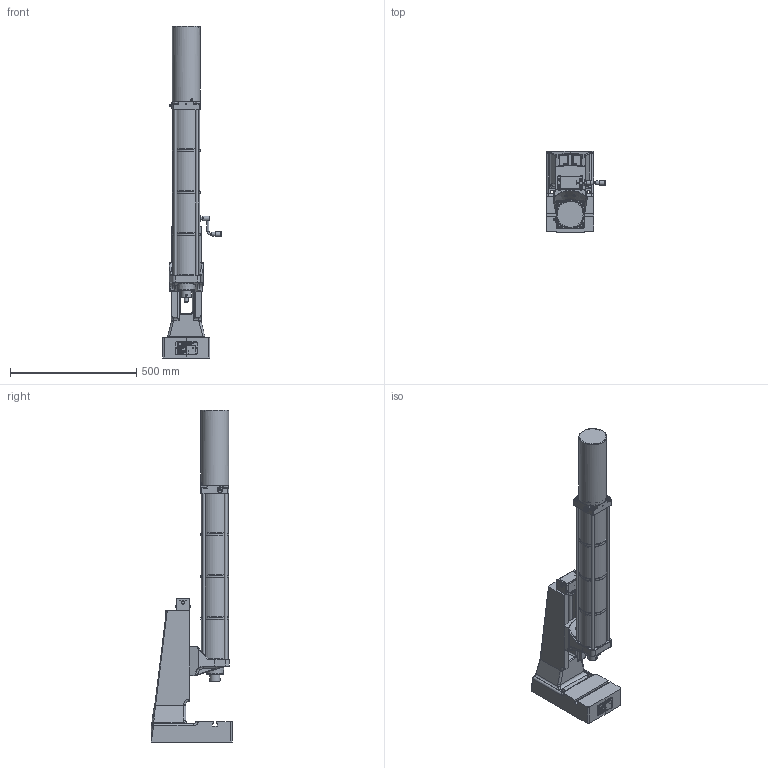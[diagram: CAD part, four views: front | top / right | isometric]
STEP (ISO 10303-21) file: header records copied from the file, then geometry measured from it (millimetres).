
FILE_DESCRIPTION(/* description */ ('Bausatz Ständer T460 N HV-OST'),/* implementation_level */ '2;1');
FILE_NAME(/* name */ 'B:\02_CAD_oeffentlich\CAD_3D_oeffentlich_step\Druckluftpresse\DRP_1700_120_100.stp',/* time_stamp */ '2017-08-25T09:02:33+02:00',/* author */ ('Finsterle'),/* organization */ (''),/* preprocessor_version */ 'ST-DEVELOPER v16.1',/* originating_system */ 'Autodesk Inventor 2016',/* authorisation */ '');
FILE_SCHEMA (('AUTOMOTIVE_DESIGN { 1 0 10303 214 3 1 1 }'));
Products named in the file (5): ENG-000341-1_V; ENG-001111_V; HBF-000760; ENG-000755; HBF-001064_V
Assembly tree (5 placements, depth 2):
  HBF-001064_V
    ENG-000341-1_V
    ENG-001111_V
    HBF-000760
    ENG-000755  x2
Bounding box: 231.79 x 321.2 x 1313.19 mm (x, y, z)
Volume: 10542198.2 mm3; surface area: 1704789.5 mm2
Topology: 6 solids, 29 shells, 7849 faces, 21167 edges, 13802 vertices
Faces by surface type: plane 4664, bspline 2170, cylinder 545, cone 274, torus 120, sphere 76
Full cylindrical faces by diameter (mm): 1 x1, 2 x1, 2.459 x2, 3 x9, 3.242 x7, 3.5 x2, 3.65 x4, 4 x10, 4.134 x1, 4.5 x4, 4.917 x6, 5 x3, 6 x4, 6.2 x4, 6.5 x2, 6.647 x1, 8 x7, 8.4 x1, 8.5 x1, 10 x12, 10.02 x1, 10.106 x2, 10.5 x12, 11.8 x2, 12 x7, 13 x8, 13.5 x4, 14 x3, 14.376 x2, 14.95 x3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
Entity records: 267393 total; most frequent: CARTESIAN_POINT 80085, ORIENTED_EDGE 40892, DIRECTION 28928, EDGE_CURVE 20434, LINE 14076, VECTOR 14076, VERTEX_POINT 13641, EDGE_LOOP 8928
